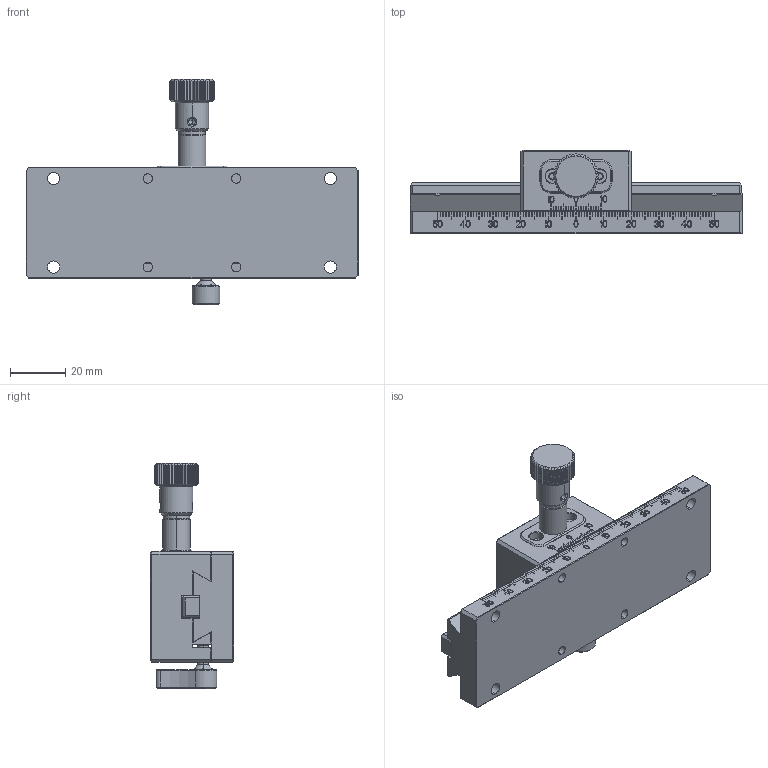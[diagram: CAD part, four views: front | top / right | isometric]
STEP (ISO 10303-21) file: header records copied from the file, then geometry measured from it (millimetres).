
FILE_DESCRIPTION((''),'2;1');
FILE_NAME('ASSY-40-ST100_ASM','2021-12-23T17:09:47',('windows10'),(''),'CREO PARAMETRIC BY PTC INC, 2018260','CREO PARAMETRIC BY PTC INC, 2018260','');
FILE_SCHEMA(('CONFIG_CONTROL_DESIGN'));
Products named in the file (14): BOTTOM-40-120-M; RACK-8-6-120; ASSY-BOTTOM-40-120-M_ASM; TOP-40-40-F-NEW; HOLDER-PINION-16D3; PINION-4-41; WHASHER-9D6-4D1-1D2; HANDLE-16-19; ASSY-HANDLE-16-51D8_ASM; ASSY-TOP-40-40-F_ASM; STOPPER-A-NEW; LEVER-NEW; ASSY-STOPPER-NEW_ASM; ASSY-40-ST100_ASM
Assembly tree (13 placements, depth 4):
  ASSY-40-ST100_ASM
    ASSY-BOTTOM-40-120-M_ASM
      BOTTOM-40-120-M
      RACK-8-6-120
    ASSY-TOP-40-40-F_ASM
      TOP-40-40-F-NEW
      ASSY-HANDLE-16-51D8_ASM
        HOLDER-PINION-16D3
        PINION-4-41
        WHASHER-9D6-4D1-1D2
        HANDLE-16-19
    ASSY-STOPPER-NEW_ASM
      STOPPER-A-NEW
      LEVER-NEW
Bounding box: 120 x 30 x 81.37 mm (x, y, z)
Volume: 87914.3 mm3; surface area: 34449.1 mm2
Topology: 9 solids, 9 shells, 2199 faces, 5796 edges, 3802 vertices
Faces by surface type: plane 1854, cylinder 213, cone 122, torus 6, bspline 4
Entity records: 68076 total; most frequent: CARTESIAN_POINT 13221, ORIENTED_EDGE 11580, DIRECTION 10572, EDGE_CURVE 5790, VECTOR 5008, LINE 5008, VERTEX_POINT 3802, AXIS2_PLACEMENT_3D 2782
